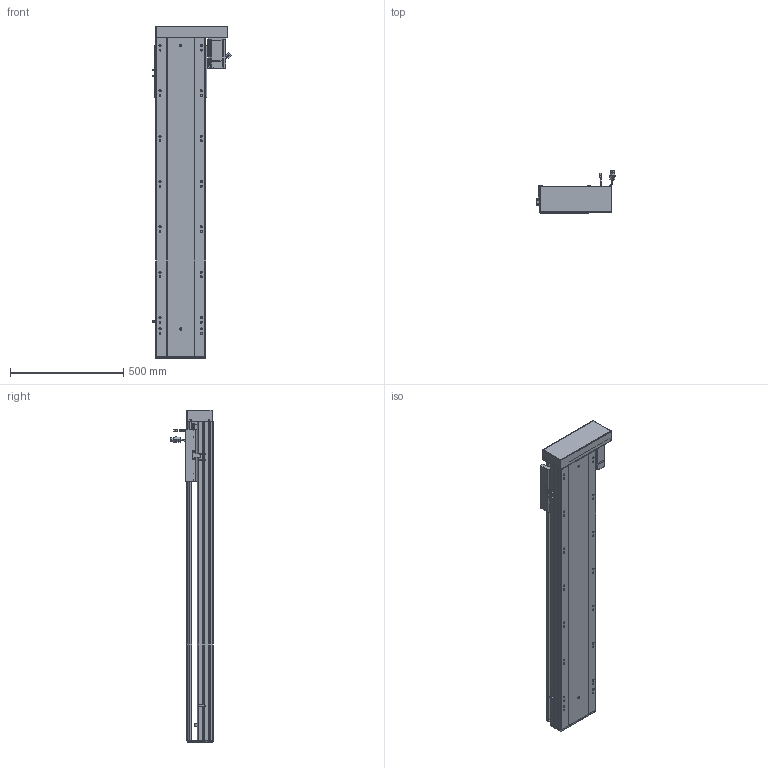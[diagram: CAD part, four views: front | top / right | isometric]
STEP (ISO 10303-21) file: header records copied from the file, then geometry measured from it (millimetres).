
FILE_DESCRIPTION (( 'STEP AP203' ), '1' );
FILE_NAME ('RY220-L2525-800-RK-邧嶺.SLDASM_1050.step', '2022-08-06T08:52:49', ( '' ), ( '' ), 'SwSTEP 2.0', 'SolidWorks 2016', '' );
FILE_SCHEMA (( 'CONFIG_CONTROL_DESIGN' ));
Length unit declared in the file: millimetre
Products named in the file (12): 怢湛750W_ECMA-CX0807ES; RY220酘衵殏萇儂欶; 滅袉蝶18-15; 滅袉蝶18-10; RY220綴裔啣; RY220-800-蛌殏奻裔啣_1050; 覜茼ん672; RY220蛌殏菁釱-800-邧嶺_1050; RY220-俋离672覜茼んえ; RY220半封闭25-32螺母铝滑块; RY220-L2525-800-RK-邧嶺.SLDASM_1050; RY220左右折电机安装板
Assembly tree (15 placements, depth 2):
  RY220-L2525-800-RK-邧嶺.SLDASM_1050
    RY220蛌殏菁釱-800-邧嶺_1050
    RY220-800-蛌殏奻裔啣_1050
    怢湛750W_ECMA-CX0807ES
    滅袉蝶18-10  x2
    RY220-俋离672覜茼んえ
    覜茼ん672  x3
    RY220綴裔啣
    RY220半封闭25-32螺母铝滑块
    滅袉蝶18-15  x2
    RY220左右折电机安装板
    RY220酘衵殏萇儂欶
Bounding box: 347.44 x 187.27 x 1464 mm (x, y, z)
Volume: 12057038.2 mm3; surface area: 3547720.8 mm2
Topology: 16 solids, 16 shells, 2197 faces, 6064 edges, 3831 vertices
Faces by surface type: cylinder 993, plane 904, cone 230, bspline 44, sphere 16, torus 10
Entity records: 72531 total; most frequent: CARTESIAN_POINT 21005, ORIENTED_EDGE 10696, DIRECTION 10068, EDGE_CURVE 5348, AXIS2_PLACEMENT_3D 3539, VERTEX_POINT 3487, LINE 2990, VECTOR 2990
